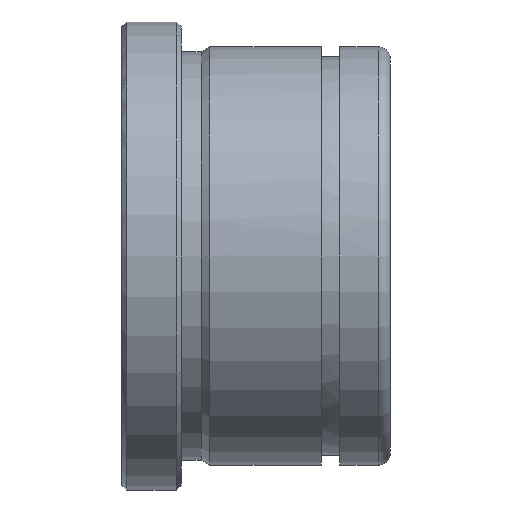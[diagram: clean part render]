
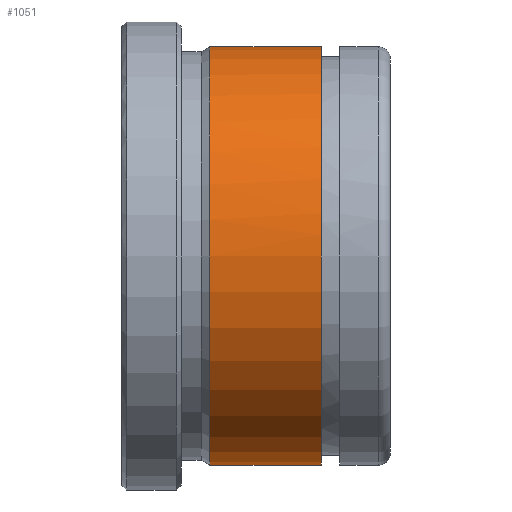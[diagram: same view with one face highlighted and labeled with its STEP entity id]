
A CAD part, front view. The second image highlights one B-rep face of the part: STEP entity #1051.
In plain terms, the highlighted cylindrical face has radius 21 mm (diameter 42 mm), a partial arc.
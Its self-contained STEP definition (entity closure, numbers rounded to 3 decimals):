
#851=CARTESIAN_POINT('Vertex',(8.866,0.,-21.)) ;
#858=CARTESIAN_POINT('Vertex',(8.866,0.,21.)) ;
#887=CARTESIAN_POINT('Axis2P3D Location',(8.866,0.,0.)) ;
#891=CARTESIAN_POINT('Vertex',(8.866,-21.,0.)) ;
#894=CARTESIAN_POINT('Axis2P3D Location',(8.866,0.,0.)) ;
#985=CARTESIAN_POINT('Line Origine',(54.,0.,21.)) ;
#989=CARTESIAN_POINT('Vertex',(20.05,0.,21.)) ;
#1006=CARTESIAN_POINT('Vertex',(20.05,0.,-21.)) ;
#1009=CARTESIAN_POINT('Line Origine',(54.,0.,-21.)) ;
#1023=CARTESIAN_POINT('Axis2P3D Location',(54.,0.,0.)) ;
#1028=CARTESIAN_POINT('Axis2P3D Location',(20.05,0.,0.)) ;
#1032=CARTESIAN_POINT('Vertex',(20.05,-21.,0.)) ;
#1036=CARTESIAN_POINT('Control Point',(20.05,0.,21.)) ;
#1037=CARTESIAN_POINT('Control Point',(20.05,-6.597,21.)) ;
#1038=CARTESIAN_POINT('Control Point',(20.05,-13.201,18.417)) ;
#1039=CARTESIAN_POINT('Control Point',(20.05,-18.417,13.201)) ;
#1040=CARTESIAN_POINT('Control Point',(20.05,-21.,6.597)) ;
#1041=CARTESIAN_POINT('Control Point',(20.05,-21.,0.)) ;
#888=DIRECTION('Axis2P3D Direction',(1.,0.,-0.)) ;
#895=DIRECTION('Axis2P3D Direction',(1.,0.,-0.)) ;
#986=DIRECTION('Vector Direction',(-1.,0.,0.)) ;
#1010=DIRECTION('Vector Direction',(-1.,0.,0.)) ;
#1024=DIRECTION('Axis2P3D Direction',(-1.,-0.,-0.)) ;
#1025=DIRECTION('Axis2P3D XDirection',(0.,0.,-1.)) ;
#1029=DIRECTION('Axis2P3D Direction',(-1.,-0.,-0.)) ;
#889=AXIS2_PLACEMENT_3D('Circle Axis2P3D',#887,#888,$) ;
#896=AXIS2_PLACEMENT_3D('Circle Axis2P3D',#894,#895,$) ;
#1026=AXIS2_PLACEMENT_3D('Cylinder Axis2P3D',#1023,#1024,#1025) ;
#1030=AXIS2_PLACEMENT_3D('Circle Axis2P3D',#1028,#1029,$) ;
#1044=ORIENTED_EDGE('',*,*,#1013,.T.) ;
#1045=ORIENTED_EDGE('',*,*,#1034,.F.) ;
#1046=ORIENTED_EDGE('',*,*,#1042,.F.) ;
#1047=ORIENTED_EDGE('',*,*,#991,.T.) ;
#1048=ORIENTED_EDGE('',*,*,#898,.T.) ;
#1049=ORIENTED_EDGE('',*,*,#893,.T.) ;
#987=VECTOR('Line Direction',#986,1.) ;
#1011=VECTOR('Line Direction',#1010,1.) ;
#1051=ADVANCED_FACE('553-32X27',(#1050),#1027,.T.) ;
#1035=B_SPLINE_CURVE_WITH_KNOTS('',5,(#1036,#1037,#1038,#1039,#1040,#1041),.UNSPECIFIED.,.F.,.U.,(6,6),(-16.493,16.493),.UNSPECIFIED.) ;
#890=CIRCLE('generated circle',#889,21.) ;
#897=CIRCLE('generated circle',#896,21.) ;
#1031=CIRCLE('generated circle',#1030,21.) ;
#1027=CYLINDRICAL_SURFACE('generated cylinder',#1026,21.) ;
#893=EDGE_CURVE('',#892,#852,#890,.T.) ;
#898=EDGE_CURVE('',#859,#892,#897,.T.) ;
#991=EDGE_CURVE('',#990,#859,#988,.T.) ;
#1013=EDGE_CURVE('',#852,#1007,#1012,.F.) ;
#1034=EDGE_CURVE('',#1033,#1007,#1031,.F.) ;
#1042=EDGE_CURVE('',#990,#1033,#1035,.T.) ;
#1043=EDGE_LOOP('',(#1044,#1045,#1046,#1047,#1048,#1049)) ;
#1050=FACE_OUTER_BOUND('',#1043,.T.) ;
#988=LINE('Line',#985,#987) ;
#1012=LINE('Line',#1009,#1011) ;
#852=VERTEX_POINT('',#851) ;
#859=VERTEX_POINT('',#858) ;
#892=VERTEX_POINT('',#891) ;
#990=VERTEX_POINT('',#989) ;
#1007=VERTEX_POINT('',#1006) ;
#1033=VERTEX_POINT('',#1032) ;
